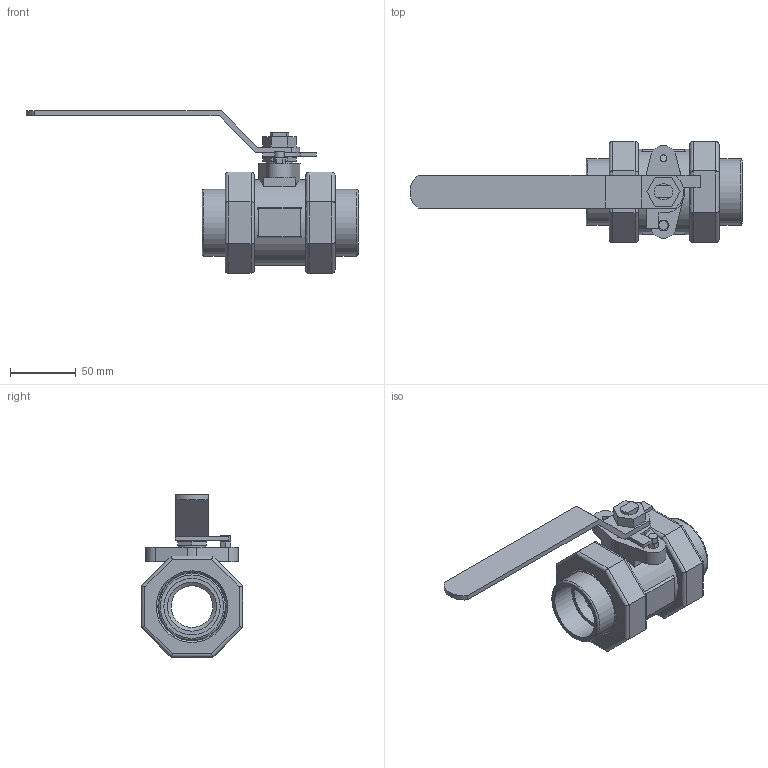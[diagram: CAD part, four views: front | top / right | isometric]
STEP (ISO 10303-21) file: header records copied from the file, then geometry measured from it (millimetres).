
FILE_DESCRIPTION((' '),'2;1');
FILE_NAME('N:\Technical Support\Private\Jomar Valve CAD\Ball Valves\CS and SS\2002N-DUE\1.25 S-CS[SS]-2002N-DUE (101-996 [101-986])FusionCopy.stp.step','2017-01-24T13:05:20',(' '),(' '),' ','ACIS',' ');
FILE_SCHEMA(('CONFIG_CONTROL_DESIGN'));
Length unit declared in the file: inch
Products named in the file (15): N:\Technical Support\Private\Jomar Valve CAD\Ball Valves\CS and SS\2002N-DUE\1.25 S-CS[SS]-2002N-DUE (101-996 [101-986])FusionCopy.stp.step; Body1; Body2; Body3; Body4; Body5; Body6; Body7; Body8; Body9; Body10; Body11; Body12; Body13; Body14
Assembly tree (14 placements, depth 2):
  N:\Technical Support\Private\Jomar Valve CAD\Ball Valves\CS and SS\2002N-DUE\1.25 S-CS[SS]-2002N-DUE (101-996 [101-986])FusionCopy.stp.step
    Body1
    Body2
    Body3
    Body4
    Body5
    Body6
    Body7
    Body8
    Body9
    Body10
    Body11
    Body12
    Body13
    Body14
Bounding box: 253.28 x 77.22 x 123.96 mm (x, y, z)
Volume: 344634.2 mm3; surface area: 106723.9 mm2
Topology: 14 solids, 14 shells, 204 faces, 438 edges, 280 vertices
Faces by surface type: plane 95, bspline 54, cylinder 52, cone 2, torus 1
Full cylindrical faces by diameter (mm): 5.207 x2, 6.248 x1, 7.036 x1, 12.395 x1, 14.859 x1, 20.701 x1, 31.877 x2, 37.389 x1, 42.926 x1, 44.577 x2, 50.47 x2, 50.927 x1, 51.943 x1, 52.07 x1, 55.626 x1, 58.928 x1, 59.182 x1, 65.278 x1, 66.167 x1, 67.945 x1
Entity records: 7840 total; most frequent: CARTESIAN_POINT 1489, DIRECTION 887, ORIENTED_EDGE 784, EDGE_CURVE 392, AXIS2_PLACEMENT_3D 318, EDGE_LOOP 287, VERTEX_POINT 273, VECTOR 251
